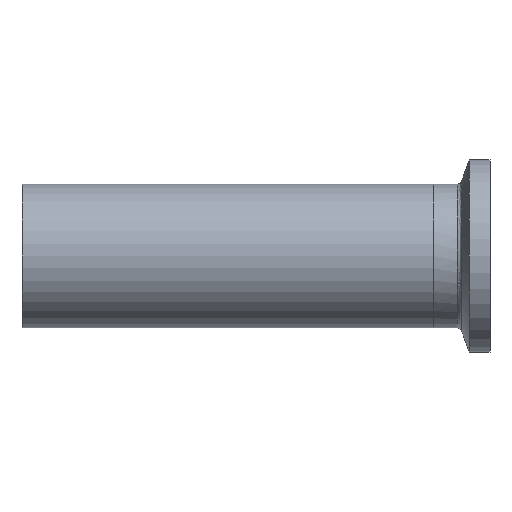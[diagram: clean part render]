
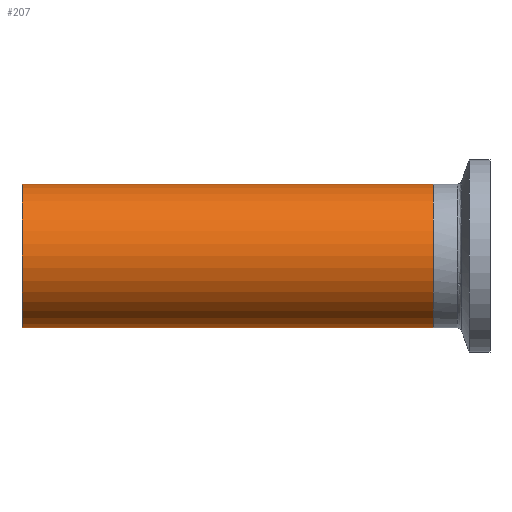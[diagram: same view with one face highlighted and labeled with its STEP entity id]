
A CAD part, front view. The second image highlights one B-rep face of the part: STEP entity #207.
In plain terms, the highlighted cylindrical face has radius 12.7 mm (diameter 25.4 mm), a partial arc.
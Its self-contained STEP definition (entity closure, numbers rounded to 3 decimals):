
#4 = CARTESIAN_POINT ( 'NONE',  ( -54., 0., -12.7 ) ) ;
#8 = VECTOR ( 'NONE', #565, 1000. ) ;
#26 = VERTEX_POINT ( 'NONE', #4 ) ;
#154 = CARTESIAN_POINT ( 'NONE',  ( 54.521, 0., -12.7 ) ) ;
#193 = EDGE_CURVE ( 'NONE', #916, #429, #507, .T. ) ;
#207 = ADVANCED_FACE ( 'NONE', ( #1155 ), #930, .T. ) ;
#227 = VECTOR ( 'NONE', #940, 1000. ) ;
#249 = CIRCLE ( 'NONE', #512, 12.7 ) ;
#294 = DIRECTION ( 'NONE',  ( 0., 0., 1. ) ) ;
#313 = VERTEX_POINT ( 'NONE', #671 ) ;
#342 = DIRECTION ( 'NONE',  ( 0., 0., 1. ) ) ;
#346 = DIRECTION ( 'NONE',  ( 1., 0., 0. ) ) ;
#357 = CARTESIAN_POINT ( 'NONE',  ( -54., 0., 0. ) ) ;
#400 = EDGE_LOOP ( 'NONE', ( #798, #682, #631, #1071, #842, #843 ) ) ;
#429 = VERTEX_POINT ( 'NONE', #861 ) ;
#445 = VERTEX_POINT ( 'NONE', #749 ) ;
#463 = DIRECTION ( 'NONE',  ( 0., 0., 1. ) ) ;
#467 = DIRECTION ( 'NONE',  ( -1., 0., 0. ) ) ;
#468 = CARTESIAN_POINT ( 'NONE',  ( 18.6, 0., 0. ) ) ;
#484 = DIRECTION ( 'NONE',  ( -1., 0., 0. ) ) ;
#506 = DIRECTION ( 'NONE',  ( -1., 0., 0. ) ) ;
#507 = LINE ( 'NONE', #154, #227 ) ;
#508 = VECTOR ( 'NONE', #659, 1000. ) ;
#512 = AXIS2_PLACEMENT_3D ( 'NONE', #468, #467, #463 ) ;
#537 = CARTESIAN_POINT ( 'NONE',  ( 54.521, 0., 0. ) ) ;
#539 = CARTESIAN_POINT ( 'NONE',  ( 54.521, 0., 12.7 ) ) ;
#553 = LINE ( 'NONE', #572, #8 ) ;
#565 = DIRECTION ( 'NONE',  ( -1., 0., 0. ) ) ;
#572 = CARTESIAN_POINT ( 'NONE',  ( 54.521, 0., -12.7 ) ) ;
#581 = EDGE_CURVE ( 'NONE', #429, #26, #553, .T. ) ;
#617 = CARTESIAN_POINT ( 'NONE',  ( 54.521, 0., 12.7 ) ) ;
#621 = EDGE_CURVE ( 'NONE', #445, #920, #1222, .T. ) ;
#631 = ORIENTED_EDGE ( 'NONE', *, *, #1017, .T. ) ;
#650 = EDGE_CURVE ( 'NONE', #916, #313, #249, .T. ) ;
#659 = DIRECTION ( 'NONE',  ( -1., 0., 0. ) ) ;
#671 = CARTESIAN_POINT ( 'NONE',  ( 18.6, 0., 12.7 ) ) ;
#682 = ORIENTED_EDGE ( 'NONE', *, *, #650, .T. ) ;
#749 = CARTESIAN_POINT ( 'NONE',  ( 0., 0., 12.7 ) ) ;
#798 = ORIENTED_EDGE ( 'NONE', *, *, #193, .F. ) ;
#810 = AXIS2_PLACEMENT_3D ( 'NONE', #357, #346, #342 ) ;
#842 = ORIENTED_EDGE ( 'NONE', *, *, #1056, .T. ) ;
#843 = ORIENTED_EDGE ( 'NONE', *, *, #581, .F. ) ;
#861 = CARTESIAN_POINT ( 'NONE',  ( 0., 0., -12.7 ) ) ;
#916 = VERTEX_POINT ( 'NONE', #1008 ) ;
#920 = VERTEX_POINT ( 'NONE', #1013 ) ;
#930 = CYLINDRICAL_SURFACE ( 'NONE', #1114, 12.7 ) ;
#940 = DIRECTION ( 'NONE',  ( -1., 0., 0. ) ) ;
#997 = VECTOR ( 'NONE', #484, 1000. ) ;
#1008 = CARTESIAN_POINT ( 'NONE',  ( 18.6, 0., -12.7 ) ) ;
#1013 = CARTESIAN_POINT ( 'NONE',  ( -54., 0., 12.7 ) ) ;
#1017 = EDGE_CURVE ( 'NONE', #313, #445, #1042, .T. ) ;
#1042 = LINE ( 'NONE', #539, #508 ) ;
#1056 = EDGE_CURVE ( 'NONE', #920, #26, #1205, .T. ) ;
#1071 = ORIENTED_EDGE ( 'NONE', *, *, #621, .T. ) ;
#1114 = AXIS2_PLACEMENT_3D ( 'NONE', #537, #506, #294 ) ;
#1155 = FACE_OUTER_BOUND ( 'NONE', #400, .T. ) ;
#1205 = CIRCLE ( 'NONE', #810, 12.7 ) ;
#1222 = LINE ( 'NONE', #617, #997 ) ;
